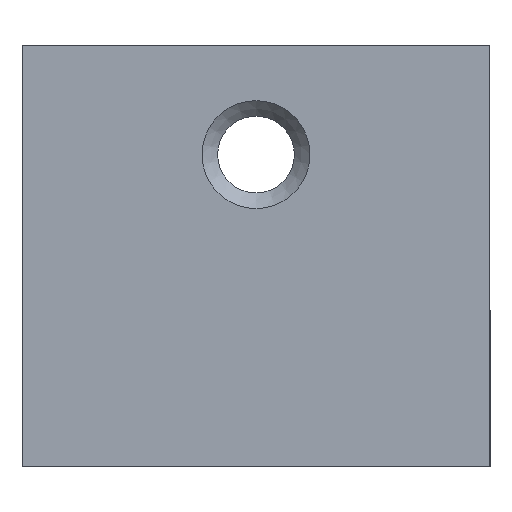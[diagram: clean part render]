
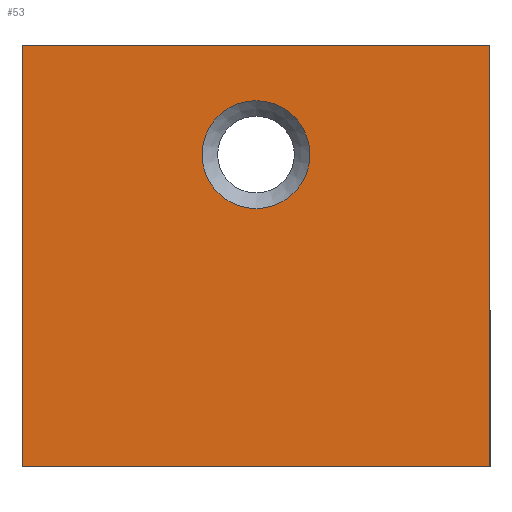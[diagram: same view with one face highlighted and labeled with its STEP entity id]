
A CAD part, left-side view. The second image highlights one B-rep face of the part: STEP entity #53.
In plain terms, the highlighted planar face has unit normal (-1, 0, 0).
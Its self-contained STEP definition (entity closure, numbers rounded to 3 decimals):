
#53=ADVANCED_FACE('',(#161,#163),#165,.T.);
#161=FACE_BOUND('',#162,.T.);
#162=EDGE_LOOP('',(#265,#266,#267,#268));
#163=FACE_BOUND('',#164,.T.);
#164=EDGE_LOOP('',(#269));
#165=PLANE('',#166);
#166=AXIS2_PLACEMENT_3D('',#167,#168,#169);
#167=CARTESIAN_POINT('',(-20.,15.,0.));
#168=DIRECTION('',(-1.,0.,0.));
#169=DIRECTION('',(0.,-1.,0.));
#265=ORIENTED_EDGE('',*,*,#315,.T.);
#266=ORIENTED_EDGE('',*,*,#316,.T.);
#267=ORIENTED_EDGE('',*,*,#317,.F.);
#268=ORIENTED_EDGE('',*,*,#318,.F.);
#269=ORIENTED_EDGE('',*,*,#319,.T.);
#315=EDGE_CURVE('',#340,#341,#342,.T.);
#316=EDGE_CURVE('',#341,#343,#344,.T.);
#317=EDGE_CURVE('',#345,#343,#346,.T.);
#318=EDGE_CURVE('',#340,#345,#347,.T.);
#319=EDGE_CURVE('',#348,#348,#349,.F.);
#340=VERTEX_POINT('',#384);
#341=VERTEX_POINT('',#385);
#342=LINE('',#386,#387);
#343=VERTEX_POINT('',#389);
#344=LINE('',#390,#391);
#345=VERTEX_POINT('',#393);
#346=LINE('',#394,#395);
#347=LINE('',#397,#398);
#348=VERTEX_POINT('',#400);
#349=CIRCLE('',#401,3.459);
#384=CARTESIAN_POINT('',(-20.,15.,0.));
#385=CARTESIAN_POINT('',(-20.,-15.,0.));
#386=CARTESIAN_POINT('',(-20.,15.,0.));
#387=VECTOR('',#388,1.);
#388=DIRECTION('',(0.,-1.,0.));
#389=CARTESIAN_POINT('',(-20.,-15.,27.));
#390=CARTESIAN_POINT('',(-20.,-15.,0.));
#391=VECTOR('',#392,1.);
#392=DIRECTION('',(0.,0.,1.));
#393=CARTESIAN_POINT('',(-20.,15.,27.));
#394=CARTESIAN_POINT('',(-20.,15.,27.));
#395=VECTOR('',#396,1.);
#396=DIRECTION('',(0.,-1.,0.));
#397=CARTESIAN_POINT('',(-20.,15.,0.));
#398=VECTOR('',#399,1.);
#399=DIRECTION('',(0.,0.,1.));
#400=CARTESIAN_POINT('',(-20.,0.,16.541));
#401=AXIS2_PLACEMENT_3D('',#402,#403,#404);
#402=CARTESIAN_POINT('',(-20.,0.,20.));
#403=DIRECTION('',(-1.,0.,0.));
#404=DIRECTION('',(0.,0.,-1.));
